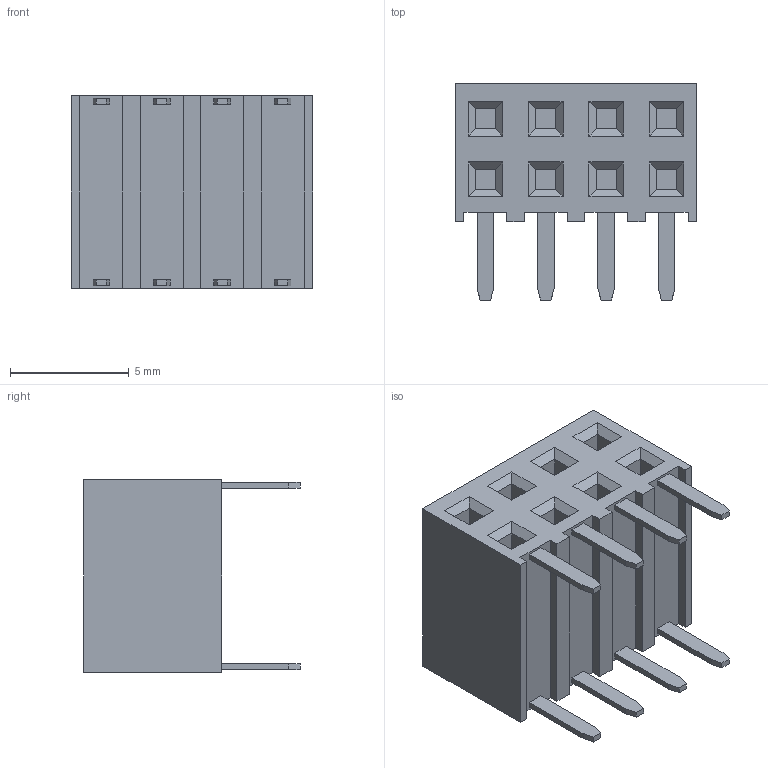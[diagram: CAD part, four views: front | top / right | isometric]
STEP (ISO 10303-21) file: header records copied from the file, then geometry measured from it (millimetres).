
FILE_DESCRIPTION(/* description */ (''),/* implementation_level */ '2;1');
FILE_NAME(/* name */ '960208-7102-XX',/* time_stamp */ '2007-06-18T08:12:38+02:00',/* author */ (''),/* organization */ (''),/* preprocessor_version */ 'ST-DEVELOPER v9',/* originating_system */ 'UGS - NX 4.0',/* authorisation */ '');
FILE_SCHEMA (('AUTOMOTIVE_DESIGN { 1 0 10303 214 1 1 1 1 }'));
Length unit declared in the file: millimetre
Products named in the file (1): 960208-7102-XX
Bounding box: 10.16 x 9.1 x 8.1 mm (x, y, z)
Volume: 434.4 mm3; surface area: 556.5 mm2
Topology: 1 solids, 1 shells, 150 faces, 364 edges, 232 vertices
Faces by surface type: plane 150
Entity records: 4276 total; most frequent: CARTESIAN_POINT 747, ORIENTED_EDGE 728, DIRECTION 666, EDGE_CURVE 364, LINE 364, VECTOR 364, VERTEX_POINT 232, EDGE_LOOP 166
